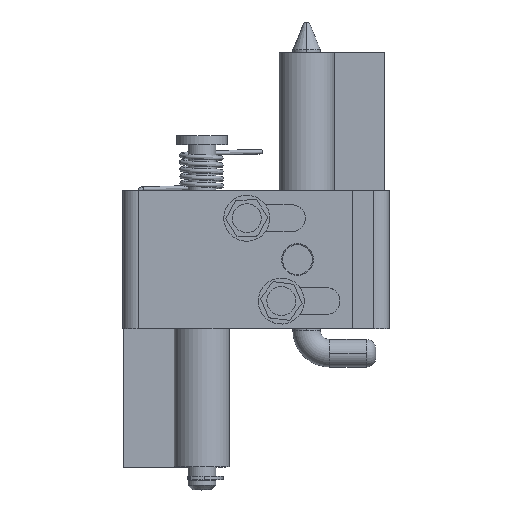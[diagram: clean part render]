
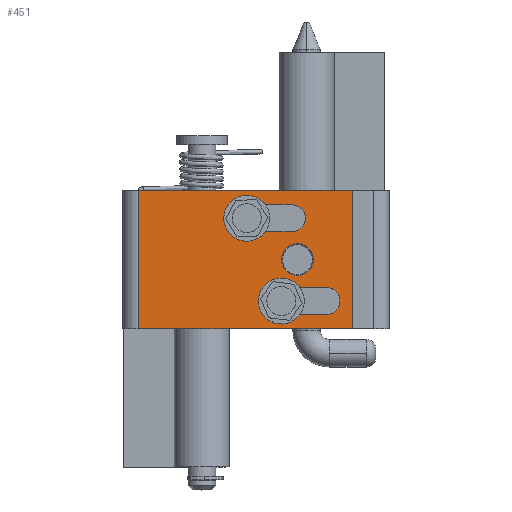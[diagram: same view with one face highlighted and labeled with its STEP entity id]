
A CAD part, top view. The second image highlights one B-rep face of the part: STEP entity #451.
In plain terms, the highlighted planar face has unit normal (0, 0, 1).
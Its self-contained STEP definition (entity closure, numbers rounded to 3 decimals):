
#181 = VERTEX_POINT ( 'NONE', #3282 ) ;
#182 = VERTEX_POINT ( 'NONE', #3281 ) ;
#199 = EDGE_CURVE ( 'NONE', #181, #182, #3316, .T. ) ;
#214 = VERTEX_POINT ( 'NONE', #3391 ) ;
#216 = EDGE_CURVE ( 'NONE', #214, #217, #3390, .T. ) ;
#217 = VERTEX_POINT ( 'NONE', #3385 ) ;
#278 = VERTEX_POINT ( 'NONE', #3483 ) ;
#280 = EDGE_CURVE ( 'NONE', #278, #281, #3482, .T. ) ;
#281 = VERTEX_POINT ( 'NONE', #3477 ) ;
#348 = VERTEX_POINT ( 'NONE', #3616 ) ;
#361 = VERTEX_POINT ( 'NONE', #3654 ) ;
#380 = EDGE_CURVE ( 'NONE', #381, #348, #3685, .T. ) ;
#381 = VERTEX_POINT ( 'NONE', #3681 ) ;
#413 = EDGE_CURVE ( 'NONE', #361, #348, #3702, .T. ) ;
#415 = VERTEX_POINT ( 'NONE', #3698 ) ;
#416 = ORIENTED_EDGE ( 'NONE', *, *, #280, .F. ) ;
#417 = ORIENTED_EDGE ( 'NONE', *, *, #418, .F. ) ;
#418 = EDGE_CURVE ( 'NONE', #419, #278, #3697, .T. ) ;
#419 = VERTEX_POINT ( 'NONE', #3757 ) ;
#420 = ORIENTED_EDGE ( 'NONE', *, *, #421, .F. ) ;
#421 = EDGE_CURVE ( 'NONE', #422, #419, #3756, .T. ) ;
#422 = VERTEX_POINT ( 'NONE', #3752 ) ;
#423 = ORIENTED_EDGE ( 'NONE', *, *, #479, .F. ) ;
#424 = ORIENTED_EDGE ( 'NONE', *, *, #425, .T. ) ;
#425 = EDGE_CURVE ( 'NONE', #182, #181, #3751, .T. ) ;
#426 = ORIENTED_EDGE ( 'NONE', *, *, #199, .T. ) ;
#427 = EDGE_LOOP ( 'NONE', ( #428, #431, #432, #435, #491 ) ) ;
#428 = ORIENTED_EDGE ( 'NONE', *, *, #429, .F. ) ;
#429 = EDGE_CURVE ( 'NONE', #217, #430, #3746, .T. ) ;
#430 = VERTEX_POINT ( 'NONE', #3742 ) ;
#431 = ORIENTED_EDGE ( 'NONE', *, *, #216, .F. ) ;
#432 = ORIENTED_EDGE ( 'NONE', *, *, #433, .F. ) ;
#433 = EDGE_CURVE ( 'NONE', #434, #214, #3741, .T. ) ;
#434 = VERTEX_POINT ( 'NONE', #3736 ) ;
#435 = ORIENTED_EDGE ( 'NONE', *, *, #436, .F. ) ;
#436 = EDGE_CURVE ( 'NONE', #437, #434, #3735, .T. ) ;
#437 = VERTEX_POINT ( 'NONE', #3731 ) ;
#438 = EDGE_LOOP ( 'NONE', ( #493, #416, #417, #420, #423 ) ) ;
#447 = EDGE_CURVE ( 'NONE', #361, #448, #3788, .T. ) ;
#448 = VERTEX_POINT ( 'NONE', #3784 ) ;
#451 = ADVANCED_FACE ( 'NONE', ( #3779, #3778, #3777, #3776 ), #3775, .T. ) ;
#452 = EDGE_LOOP ( 'NONE', ( #424, #426 ) ) ;
#479 = EDGE_CURVE ( 'NONE', #415, #422, #3797, .T. ) ;
#480 = EDGE_LOOP ( 'NONE', ( #481, #482, #483, #484 ) ) ;
#481 = ORIENTED_EDGE ( 'NONE', *, *, #447, .F. ) ;
#482 = ORIENTED_EDGE ( 'NONE', *, *, #413, .T. ) ;
#483 = ORIENTED_EDGE ( 'NONE', *, *, #380, .F. ) ;
#484 = ORIENTED_EDGE ( 'NONE', *, *, #485, .F. ) ;
#485 = EDGE_CURVE ( 'NONE', #448, #381, #3858, .T. ) ;
#491 = ORIENTED_EDGE ( 'NONE', *, *, #492, .F. ) ;
#492 = EDGE_CURVE ( 'NONE', #430, #437, #3848, .T. ) ;
#493 = ORIENTED_EDGE ( 'NONE', *, *, #494, .F. ) ;
#494 = EDGE_CURVE ( 'NONE', #281, #415, #3843, .T. ) ;
#3281 = CARTESIAN_POINT ( 'NONE',  ( -34.55, 15., 38.8 ) ) ;
#3282 = CARTESIAN_POINT ( 'NONE',  ( -41.45, 15., 38.8 ) ) ;
#3312 = DIRECTION ( 'NONE',  ( 1., 0., 0. ) ) ;
#3313 = DIRECTION ( 'NONE',  ( 0., 0., -1. ) ) ;
#3314 = CARTESIAN_POINT ( 'NONE',  ( -38., 15., 38.8 ) ) ;
#3315 = AXIS2_PLACEMENT_3D ( 'NONE', #3314, #3313, #3312 ) ;
#3316 = CIRCLE ( 'NONE', #3315, 3.45 ) ;
#3385 = CARTESIAN_POINT ( 'NONE',  ( -34.65, 26.9, 38.8 ) ) ;
#3386 = DIRECTION ( 'NONE',  ( 1., 0., 0. ) ) ;
#3387 = DIRECTION ( 'NONE',  ( 0., 0., 1. ) ) ;
#3388 = CARTESIAN_POINT ( 'NONE',  ( -34.65, 24., 38.8 ) ) ;
#3389 = AXIS2_PLACEMENT_3D ( 'NONE', #3388, #3387, #3386 ) ;
#3390 = CIRCLE ( 'NONE', #3389, 2.9 ) ;
#3391 = CARTESIAN_POINT ( 'NONE',  ( -31.75, 24., 38.8 ) ) ;
#3477 = CARTESIAN_POINT ( 'NONE',  ( -27.15, 8.9, 38.8 ) ) ;
#3478 = DIRECTION ( 'NONE',  ( 1., 0., 0. ) ) ;
#3479 = DIRECTION ( 'NONE',  ( 0., 0., 1. ) ) ;
#3480 = CARTESIAN_POINT ( 'NONE',  ( -27.15, 6., 38.8 ) ) ;
#3481 = AXIS2_PLACEMENT_3D ( 'NONE', #3480, #3479, #3478 ) ;
#3482 = CIRCLE ( 'NONE', #3481, 2.9 ) ;
#3483 = CARTESIAN_POINT ( 'NONE',  ( -24.25, 6., 38.8 ) ) ;
#3616 = CARTESIAN_POINT ( 'NONE',  ( -3.5, 30., 38.8 ) ) ;
#3654 = CARTESIAN_POINT ( 'NONE',  ( -3.5, 0., 38.8 ) ) ;
#3681 = CARTESIAN_POINT ( 'NONE',  ( -50., 30., 38.8 ) ) ;
#3682 = DIRECTION ( 'NONE',  ( 1., 0., 0. ) ) ;
#3683 = VECTOR ( 'NONE', #3682, 1000. ) ;
#3684 = CARTESIAN_POINT ( 'NONE',  ( -3., 30., 38.8 ) ) ;
#3685 = LINE ( 'NONE', #3684, #3683 ) ;
#3695 = CARTESIAN_POINT ( 'NONE',  ( -27.15, 6., 38.8 ) ) ;
#3696 = AXIS2_PLACEMENT_3D ( 'NONE', #3695, #3759, #3758 ) ;
#3697 = CIRCLE ( 'NONE', #3696, 2.9 ) ;
#3698 = CARTESIAN_POINT ( 'NONE',  ( -36.85, 8.9, 38.8 ) ) ;
#3699 = DIRECTION ( 'NONE',  ( 0., 1., 0. ) ) ;
#3700 = VECTOR ( 'NONE', #3699, 1000. ) ;
#3701 = CARTESIAN_POINT ( 'NONE',  ( -3.5, 30., 38.8 ) ) ;
#3702 = LINE ( 'NONE', #3701, #3700 ) ;
#3731 = CARTESIAN_POINT ( 'NONE',  ( -44.35, 21.1, 38.8 ) ) ;
#3732 = DIRECTION ( 'NONE',  ( 1., 0., 0. ) ) ;
#3733 = VECTOR ( 'NONE', #3732, 1000. ) ;
#3734 = CARTESIAN_POINT ( 'NONE',  ( -34.65, 21.1, 38.8 ) ) ;
#3735 = LINE ( 'NONE', #3734, #3733 ) ;
#3736 = CARTESIAN_POINT ( 'NONE',  ( -34.65, 21.1, 38.8 ) ) ;
#3737 = DIRECTION ( 'NONE',  ( 1., 0., 0. ) ) ;
#3738 = DIRECTION ( 'NONE',  ( 0., 0., 1. ) ) ;
#3739 = CARTESIAN_POINT ( 'NONE',  ( -34.65, 24., 38.8 ) ) ;
#3740 = AXIS2_PLACEMENT_3D ( 'NONE', #3739, #3738, #3737 ) ;
#3741 = CIRCLE ( 'NONE', #3740, 2.9 ) ;
#3742 = CARTESIAN_POINT ( 'NONE',  ( -44.35, 26.9, 38.8 ) ) ;
#3743 = DIRECTION ( 'NONE',  ( -1., 0., 0. ) ) ;
#3744 = VECTOR ( 'NONE', #3743, 1000. ) ;
#3745 = CARTESIAN_POINT ( 'NONE',  ( -44.35, 26.9, 38.8 ) ) ;
#3746 = LINE ( 'NONE', #3745, #3744 ) ;
#3747 = DIRECTION ( 'NONE',  ( 1., 0., 0. ) ) ;
#3748 = DIRECTION ( 'NONE',  ( 0., 0., -1. ) ) ;
#3749 = CARTESIAN_POINT ( 'NONE',  ( -38., 15., 38.8 ) ) ;
#3750 = AXIS2_PLACEMENT_3D ( 'NONE', #3749, #3748, #3747 ) ;
#3751 = CIRCLE ( 'NONE', #3750, 3.45 ) ;
#3752 = CARTESIAN_POINT ( 'NONE',  ( -36.85, 3.1, 38.8 ) ) ;
#3753 = DIRECTION ( 'NONE',  ( 1., 0., 0. ) ) ;
#3754 = VECTOR ( 'NONE', #3753, 1000. ) ;
#3755 = CARTESIAN_POINT ( 'NONE',  ( -27.15, 3.1, 38.8 ) ) ;
#3756 = LINE ( 'NONE', #3755, #3754 ) ;
#3757 = CARTESIAN_POINT ( 'NONE',  ( -27.15, 3.1, 38.8 ) ) ;
#3758 = DIRECTION ( 'NONE',  ( 1., 0., 0. ) ) ;
#3759 = DIRECTION ( 'NONE',  ( 0., 0., 1. ) ) ;
#3771 = DIRECTION ( 'NONE',  ( 1., 0., 0. ) ) ;
#3772 = DIRECTION ( 'NONE',  ( 0., 0., 1. ) ) ;
#3773 = CARTESIAN_POINT ( 'NONE',  ( -3., 30., 38.8 ) ) ;
#3774 = AXIS2_PLACEMENT_3D ( 'NONE', #3773, #3772, #3771 ) ;
#3775 = PLANE ( 'NONE',  #3774 ) ;
#3776 = FACE_OUTER_BOUND ( 'NONE', #480, .T. ) ;
#3777 = FACE_BOUND ( 'NONE', #438, .T. ) ;
#3778 = FACE_BOUND ( 'NONE', #427, .T. ) ;
#3779 = FACE_BOUND ( 'NONE', #452, .T. ) ;
#3784 = CARTESIAN_POINT ( 'NONE',  ( -50., 0., 38.8 ) ) ;
#3785 = DIRECTION ( 'NONE',  ( -1., 0., 0. ) ) ;
#3786 = VECTOR ( 'NONE', #3785, 1000. ) ;
#3787 = CARTESIAN_POINT ( 'NONE',  ( -50., 0., 38.8 ) ) ;
#3788 = LINE ( 'NONE', #3787, #3786 ) ;
#3794 = DIRECTION ( 'NONE',  ( 1., 0., 0. ) ) ;
#3795 = DIRECTION ( 'NONE',  ( 0., 0., 1. ) ) ;
#3796 = AXIS2_PLACEMENT_3D ( 'NONE', #3802, #3795, #3794 ) ;
#3797 = CIRCLE ( 'NONE', #3796, 2.9 ) ;
#3802 = CARTESIAN_POINT ( 'NONE',  ( -36.85, 6., 38.8 ) ) ;
#3840 = DIRECTION ( 'NONE',  ( -1., 0., 0. ) ) ;
#3841 = VECTOR ( 'NONE', #3840, 1000. ) ;
#3842 = CARTESIAN_POINT ( 'NONE',  ( -36.85, 8.9, 38.8 ) ) ;
#3843 = LINE ( 'NONE', #3842, #3841 ) ;
#3844 = DIRECTION ( 'NONE',  ( 1., 0., 0. ) ) ;
#3845 = DIRECTION ( 'NONE',  ( 0., 0., 1. ) ) ;
#3846 = CARTESIAN_POINT ( 'NONE',  ( -44.35, 24., 38.8 ) ) ;
#3847 = AXIS2_PLACEMENT_3D ( 'NONE', #3846, #3845, #3844 ) ;
#3848 = CIRCLE ( 'NONE', #3847, 2.9 ) ;
#3855 = DIRECTION ( 'NONE',  ( 0., 1., 0. ) ) ;
#3856 = VECTOR ( 'NONE', #3855, 1000. ) ;
#3857 = CARTESIAN_POINT ( 'NONE',  ( -50., 30., 38.8 ) ) ;
#3858 = LINE ( 'NONE', #3857, #3856 ) ;
